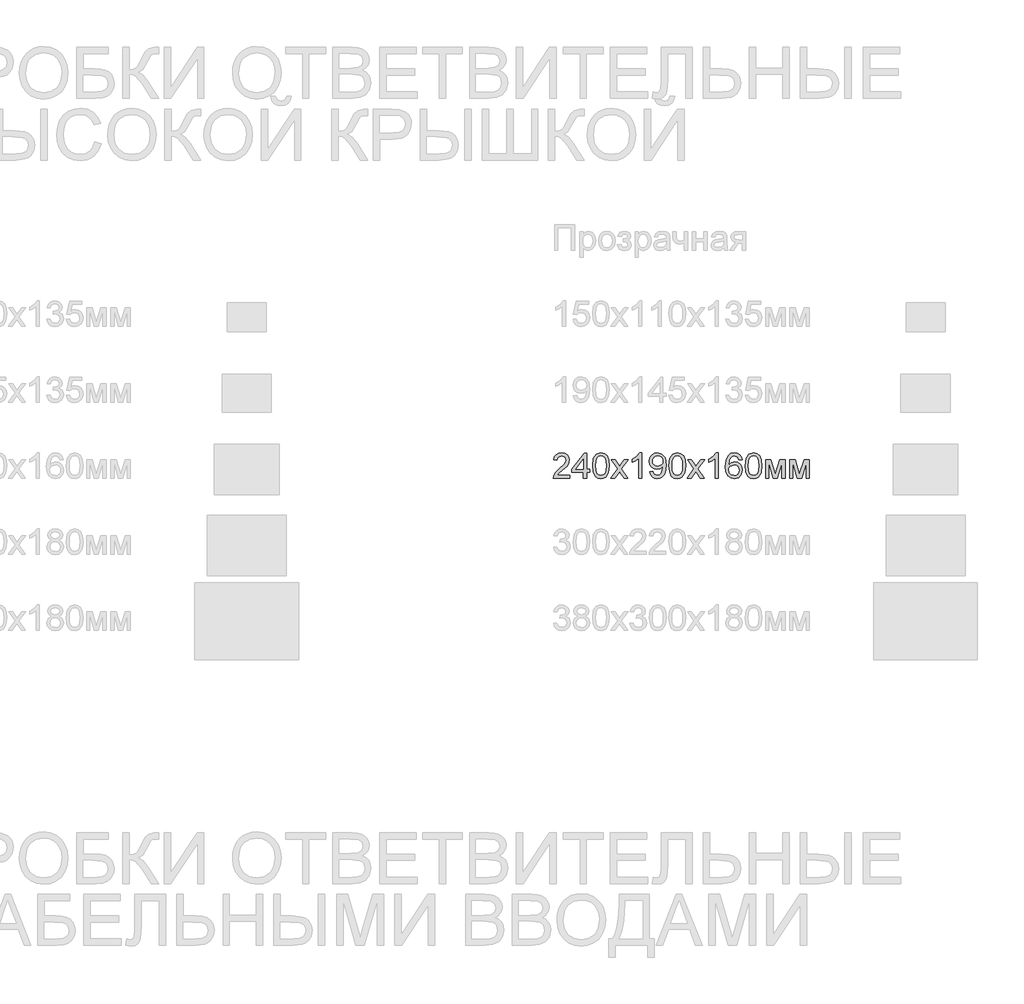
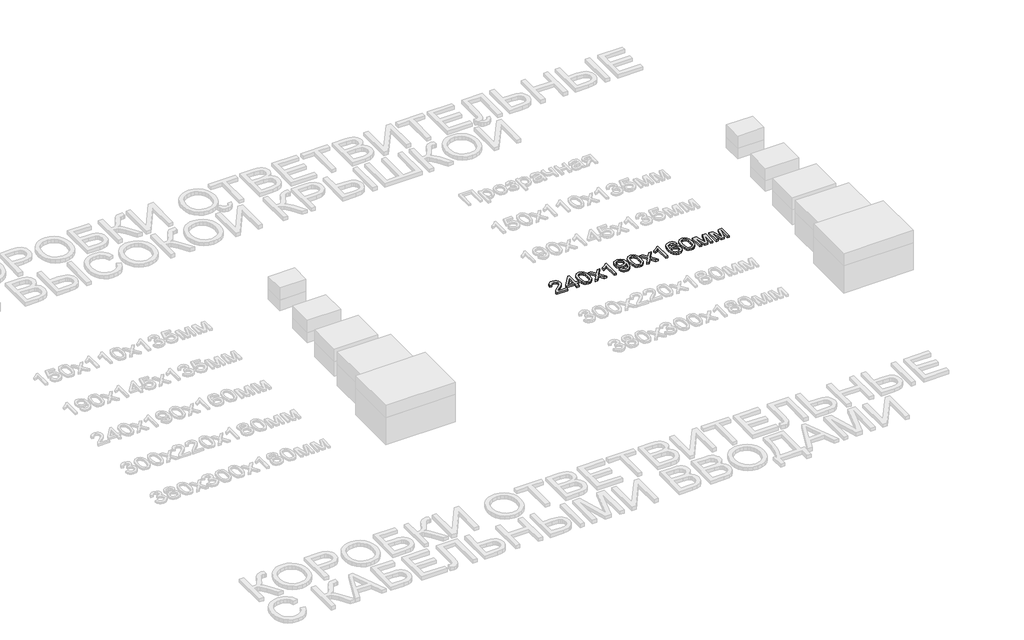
# One storey, part 19 of 98: 1 proxy.
"""IFC4 building model written with IfcOpenShell, lengths in millimetres."""

import ifcopenshell
import ifcopenshell.guid

model = None  # the IFC model being written
_history = None  # IfcOwnerHistory: only IFC2X3 demands one
_inside = {}  # id of a spatial element -> (the spatial element, [elements in it])
_under = {}  # id of a project, library or spatial element -> (it, [spatial elements below it])
_declared = {}  # id of a project -> (the project, [libraries it declares])
_typed = {}  # id of a type object -> (the type object, [elements of that type])
_made_of = {}  # id of a material, layer set ... -> (it, [elements and type objects made of it])


def new_model(schema):
    """Start an empty IFC model of exactly this schema.

    Asked for "IFC4X3", IfcOpenShell would pick the latest addendum, in which some entities
    have other attributes; the version numbers below select the first issue.
    IFC2X3 requires an IfcOwnerHistory on every rooted entity: one is made here for all.
    """
    global model, _history
    if schema == "IFC4X3":
        model = ifcopenshell.file(schema_version=(4, 3, 0, 0))
    else:
        model = ifcopenshell.file(schema=schema)
    _inside.clear()
    _under.clear()
    _declared.clear()
    _typed.clear()
    _made_of.clear()
    _history = None
    if model.schema == "IFC2X3":
        org = make("IfcOrganization", Name="unknown")
        user = make(
            "IfcPersonAndOrganization",
            ThePerson=make("IfcPerson", FamilyName="unknown"),
            TheOrganization=org,
        )
        app = make(
            "IfcApplication",
            ApplicationDeveloper=org,
            Version="unknown",
            ApplicationFullName="unknown",
            ApplicationIdentifier="unknown",
        )
        _history = make(
            "IfcOwnerHistory",
            OwningUser=user,
            OwningApplication=app,
            ChangeAction="ADDED",
            CreationDate=0,
        )
    return model


def make(cls, **values):
    """One entity of the class cls with the attributes given. An attribute that is None is left unset."""
    return model.create_entity(
        cls, **{name: value for name, value in values.items() if value is not None}
    )


def rooted(cls, **values):
    """An entity with a GlobalId (a new one), such as an element, a storey or a relation."""
    return make(cls, GlobalId=ifcopenshell.guid.new(), OwnerHistory=_history, **values)


def si_unit(unit_type, name, prefix=None):
    """IfcSIUnit, for example si_unit("LENGTHUNIT", "METRE", prefix="MILLI")."""
    return make("IfcSIUnit", UnitType=unit_type, Prefix=prefix, Name=name)


def assignment(units):
    """IfcUnitAssignment: the units of a project."""
    return None if units is None else make("IfcUnitAssignment", Units=units)


def point(xyz):
    """IfcCartesianPoint."""
    return None if xyz is None else make("IfcCartesianPoint", Coordinates=xyz)


def direction(xyz):
    """IfcDirection."""
    return None if xyz is None else make("IfcDirection", DirectionRatios=xyz)


def frame(location, z_axis=None, x_axis=None):
    """IfcAxis2Placement3D, a coordinate frame: its origin and axes. An axis left out is left unset."""
    return make(
        "IfcAxis2Placement3D",
        Location=point(location),
        Axis=direction(z_axis),
        RefDirection=direction(x_axis),
    )


def origin():
    """The frame at (0, 0, 0) with its axes left unset."""
    return frame((0.0, 0.0, 0.0))


def origin_with_axes():
    """The frame at (0, 0, 0) with the z axis (0, 0, 1) and the x axis (1, 0, 0) written out."""
    return frame((0.0, 0.0, 0.0), z_axis=(0.0, 0.0, 1.0), x_axis=(1.0, 0.0, 0.0))


def place(relative_to, where):
    """IfcLocalPlacement: puts the frame where relative to a parent placement (None: the world)."""
    return make(
        "IfcLocalPlacement", PlacementRelTo=relative_to, RelativePlacement=where
    )


def context(
    kind, dimensions, precision=None, world=None, true_north=None, identifier=None
):
    """IfcGeometricRepresentationContext, for example the 3D "Model" context."""
    return make(
        "IfcGeometricRepresentationContext",
        ContextIdentifier=identifier,
        ContextType=kind,
        CoordinateSpaceDimension=dimensions,
        Precision=precision,
        WorldCoordinateSystem=world,
        TrueNorth=true_north,
    )


def project(units=None, contexts=None):
    """IfcProject with its units and contexts."""
    return rooted(
        "IfcProject",
        Name="project",
        RepresentationContexts=contexts,
        UnitsInContext=assignment(units),
    )


def spatial(cls, under=None, at=None, **own):
    """A site, building, storey or space (cls), placed at a placement, below another one or the project."""
    s = rooted(cls, ObjectPlacement=at, **own)
    if under is not None:
        _under.setdefault(under.id(), (under, []))[1].append(s)
    return s


def polyline(points):
    """IfcPolyline through the points."""
    return make("IfcPolyline", Points=[point(p) for p in points])


def outline(outer, holes=None, kind="AREA"):
    """IfcArbitraryClosedProfileDef: a profile drawn as a closed curve; with holes, ...WithVoids."""
    if holes is None:
        return make("IfcArbitraryClosedProfileDef", ProfileType=kind, OuterCurve=outer)
    return make(
        "IfcArbitraryProfileDefWithVoids",
        ProfileType=kind,
        OuterCurve=outer,
        InnerCurves=holes,
    )


def extrude(swept, where, along, depth):
    """IfcExtrudedAreaSolid: the profile swept, set in the frame where, extruded along a direction by depth."""
    return make(
        "IfcExtrudedAreaSolid",
        SweptArea=swept,
        Position=where,
        ExtrudedDirection=direction(along),
        Depth=depth,
    )


def shape(context_of_items, identifier, shape_type, items):
    """IfcShapeRepresentation: the items that make up one representation, for example the "Body"."""
    return make(
        "IfcShapeRepresentation",
        ContextOfItems=context_of_items,
        RepresentationIdentifier=identifier,
        RepresentationType=shape_type,
        Items=items,
    )


def made_of(thing, what):
    """Note that an element or type object is made of a material, layer set ...; save() writes the relation."""
    if what is not None:
        _made_of.setdefault(what.id(), (what, []))[1].append(thing)
    return thing


def element(
    cls,
    number,
    at=None,
    inside=None,
    cuts=None,
    type_object=None,
    material=None,
    context=None,
    identifier="Body",
    shape_type=None,
    held_by="IfcProductDefinitionShape",
    body=None,
    shapes=None,
    **own,
):
    """One element of the class cls, such as IfcWall. Its Tag is "e" and its number.

    at: its placement. inside: the storey or other place that contains it. cuts: it is an
    opening in that element (IfcRelVoidsElement). A single representation is given by context,
    identifier, shape_type and body (its items); several are given by shapes. held_by: the class
    of the entity that holds the representations. save() writes the other relations.
    """
    e = rooted(cls, Tag="e%d" % number, ObjectPlacement=at, **own)
    if body is not None:
        shapes = [shape(context, identifier, shape_type, body)]
    if shapes is not None:
        e.Representation = make(held_by, Representations=shapes)
    if inside is not None:
        _inside.setdefault(inside.id(), (inside, []))[1].append(e)
    if cuts is not None:
        rooted(
            "IfcRelVoidsElement", RelatingBuildingElement=cuts, RelatedOpeningElement=e
        )
    if type_object is not None:
        _typed.setdefault(type_object.id(), (type_object, []))[1].append(e)
    return made_of(e, material)


def aggregate(whole, parts):
    """IfcRelAggregates: a whole, such as a stair, and the parts it consists of."""
    return rooted("IfcRelAggregates", RelatingObject=whole, RelatedObjects=parts)


def save(model, path):
    """Write the relations noted so far, then the file.

    IfcRelAggregates (storeys below a building ...), IfcRelContainedInSpatialStructure (elements
    in a storey), IfcRelDefinesByType, IfcRelAssociatesMaterial and IfcRelDeclares: one each for
    every whole, place, type object, material and project.
    """
    for whole, parts in _under.values():
        aggregate(whole, parts)
    for where, things in _inside.values():
        rooted(
            "IfcRelContainedInSpatialStructure",
            RelatedElements=things,
            RelatingStructure=where,
        )
    for kind, things in _typed.values():
        rooted("IfcRelDefinesByType", RelatedObjects=things, RelatingType=kind)
    for what, things in _made_of.values():
        rooted("IfcRelAssociatesMaterial", RelatedObjects=things, RelatingMaterial=what)
    for by, libraries in _declared.values():
        rooted("IfcRelDeclares", RelatingContext=by, RelatedDefinitions=libraries)
    model.write(path)


model = new_model("IFC4")

# Units and contexts
model_context = context("Model", 3, world=origin())
ifc_project = project(units=[si_unit("LENGTHUNIT", "METRE", prefix="MILLI")], contexts=[model_context])

# Site, building, storey
site = spatial("IfcSite", under=ifc_project)
building = spatial("IfcBuilding", under=site)
storey = spatial("IfcBuildingStorey", under=building, Name="Этаж 01", Elevation=0.0)

# Proxy
placement = place(None, origin())
element("IfcBuildingElementProxy", 1, Name="100", ObjectType="100", at=placement, inside=storey, context=model_context, shape_type="SweptSolid", body=[
    extrude(outline(polyline([(2703.2423416, -42924.9803098), (2703.2423416, -42937.5373486), (2637.3178881, -42937.5373486), (2638.6667887, -42928.879859), (2646.2942088, -42915.550268), (2662.0150327, -42900.9944038), (2683.6955449, -42880.074181), (2689.115673, -42865.8494105), (2684.0021133, -42854.334704), (2670.6479968, -42849.6380772), (2656.7297947, -42854.2243394), (2651.4445567, -42866.9040055), (2638.8875179, -42865.3343757), (2641.9317414, -42853.1881385), (2648.5137635, -42844.316051), (2658.2902275, -42838.8897916), (2670.917777, -42837.0810385), (2683.6372969, -42839.0921267), (2693.3953669, -42845.1253914), (2699.6033755, -42854.1385003), (2701.6727118, -42865.089121), (2699.4408943, -42876.9962349), (2692.0219408, -42889.308019), (2674.0325112, -42906.5126337), (2659.5870115, -42918.5914259), (2653.9216288, -42924.9803098), (2703.2423416, -42924.9803098)])), origin_with_axes(), (0.0, 0.0, 1.0), 10.0),
    extrude(outline(polyline([(2756.6097564, -42937.5373486), (2756.6097564, -42913.9929009), (2711.0904908, -42913.9929009), (2711.0904908, -42901.4358622), (2759.7490161, -42838.6506683), (2769.1667951, -42838.6506683), (2769.1667951, -42901.4358622), (2781.7238339, -42901.4358622), (2781.7238339, -42913.9929009), (2769.1667951, -42913.9929009), (2769.1667951, -42937.5373486), (2756.6097564, -42937.5373486)]), holes=[polyline([(2756.6097564, -42901.4358622), (2756.6097564, -42862.6365744), (2726.5415346, -42901.4358622), (2756.6097564, -42901.4358622)])]), origin_with_axes(), (0.0, 0.0, 1.0), 10.0),
    extrude(outline(polyline([(2792.7112428, -42888.1185339), (2796.4023255, -42859.2152718), (2807.365209, -42842.5502175), (2825.6734696, -42837.0810385), (2840.3396985, -42840.3184), (2850.4687161, -42849.65034), (2856.354828, -42864.5127726), (2858.6356964, -42888.1185339), (2854.9814019, -42916.8991687), (2844.0553066, -42933.6010113), (2835.823947, -42937.7304867), (2825.6734696, -42939.1069785), (2812.6259215, -42936.7157455), (2802.7176331, -42929.5420466), (2795.2128404, -42912.5520298), (2792.7112428, -42888.1185339)]), holes=[polyline([(2805.2682816, -42888.0940085), (2806.7398096, -42907.8462059), (2811.1543935, -42919.2781389), (2817.7272185, -42924.7319895), (2825.6734696, -42926.5499397), (2833.6197207, -42924.7258581), (2840.1925457, -42919.2536135), (2844.6071296, -42907.8155491), (2846.0786576, -42888.0940085), (2844.6561806, -42868.7863351), (2840.3887494, -42857.2654973), (2833.8281872, -42851.5449322), (2825.5263168, -42849.6380772), (2817.6659048, -42851.3180717), (2811.3505973, -42856.358055), (2806.7888605, -42868.5962627), (2805.2682816, -42888.0940085)])]), origin_with_axes(), (0.0, 0.0, 1.0), 10.0),
    extrude(outline(polyline([(2864.9142158, -42937.5373486), (2891.7450759, -42900.4548435), (2866.4838456, -42863.7647458), (2881.5915329, -42863.7647458), (2893.7806896, -42881.4230816), (2899.4705978, -42889.7617402), (2904.4002166, -42882.9436605), (2918.2816305, -42863.7647458), (2933.3893178, -42863.7647458), (2906.8527632, -42900.4548435), (2932.4082991, -42937.5373486), (2917.3006119, -42937.5373486), (2901.9231445, -42915.2436997), (2899.1027158, -42911.1724723), (2880.021903, -42937.5373486), (2864.9142158, -42937.5373486)])), origin_with_axes(), (0.0, 0.0, 1.0), 10.0),
    extrude(outline(polyline([(2987.3453437, -42937.5373486), (2974.788305, -42937.5373486), (2974.788305, -42859.25206), (2962.8934538, -42867.7256087), (2949.6742274, -42874.0654417), (2949.6742274, -42862.195116), (2968.0805899, -42850.4474176), (2979.2519399, -42837.0810385), (2987.3453437, -42837.0810385), (2987.3453437, -42937.5373486)])), origin_with_axes(), (0.0, 0.0, 1.0), 10.0),
    extrude(outline(polyline([(3018.7379407, -42912.4232711), (3031.2949794, -42910.8536412), (3036.9358367, -42922.8343315), (3047.62894, -42926.5499397), (3057.7947458, -42924.1587067), (3064.6864019, -42917.7698227), (3068.7944175, -42906.8559902), (3070.609302, -42892.2878632), (3070.5357256, -42889.8353166), (3060.4925471, -42899.3511975), (3046.7214978, -42903.005492), (3035.2711707, -42900.7736746), (3025.7399613, -42894.0782222), (3019.3112234, -42883.7346068), (3017.1683108, -42870.5583), (3019.4154567, -42856.9466662), (3026.1568942, -42846.2780883), (3036.2828462, -42839.3803009), (3048.6835351, -42837.0810385), (3066.5748628, -42842.3294883), (3078.8866469, -42857.2900227), (3083.0927644, -42885.3962072), (3078.8989096, -42915.8936246), (3073.6841823, -42925.8846864), (3066.42771, -42933.1718156), (3057.4421922, -42937.6231877), (3047.0403288, -42939.1069785), (3036.3043059, -42937.3564733), (3027.7387868, -42932.1049578), (3021.7484417, -42923.6835258), (3018.7379407, -42912.4232711)]), holes=[polyline([(3070.5357256, -42870.2639944), (3069.1806936, -42861.7536576), (3065.1155975, -42855.2053581), (3058.8064213, -42851.0298974), (3050.7191488, -42849.6380772), (3042.3314393, -42851.1371964), (3035.6114615, -42855.6345538), (3031.1968776, -42862.5170127), (3029.7253496, -42871.1714367), (3031.1171698, -42878.9306811), (3035.2926305, -42885.0896388), (3041.8470613, -42889.1087496), (3050.3757923, -42890.4484532), (3064.8580801, -42885.0896388), (3069.1163142, -42878.7038205), (3070.5357256, -42870.2639944)])]), origin_with_axes(), (0.0, 0.0, 1.0), 10.0),
    extrude(outline(polyline([(3094.0801733, -42888.1185339), (3097.771256, -42859.2152718), (3108.7341394, -42842.5502175), (3127.0424, -42837.0810385), (3141.7086289, -42840.3184), (3151.8376465, -42849.65034), (3157.7237584, -42864.5127726), (3160.0046268, -42888.1185339), (3156.3503323, -42916.8991687), (3145.4242371, -42933.6010113), (3137.1928774, -42937.7304867), (3127.0424, -42939.1069785), (3113.994852, -42936.7157455), (3104.0865635, -42929.5420466), (3096.5817708, -42912.5520298), (3094.0801733, -42888.1185339)]), holes=[polyline([(3106.637212, -42888.0940085), (3108.10874, -42907.8462059), (3112.523324, -42919.2781389), (3119.096149, -42924.7319895), (3127.0424, -42926.5499397), (3134.9886511, -42924.7258581), (3141.5614761, -42919.2536135), (3145.9760601, -42907.8155491), (3147.447588, -42888.0940085), (3146.025111, -42868.7863351), (3141.7576799, -42857.2654973), (3135.1971176, -42851.5449322), (3126.8952473, -42849.6380772), (3119.0348353, -42851.3180717), (3112.7195277, -42856.358055), (3108.157791, -42868.5962627), (3106.637212, -42888.0940085)])]), origin_with_axes(), (0.0, 0.0, 1.0), 10.0),
    extrude(outline(polyline([(3166.2831462, -42937.5373486), (3193.1140064, -42900.4548435), (3167.852776, -42863.7647458), (3182.9604633, -42863.7647458), (3195.1496201, -42881.4230816), (3200.8395283, -42889.7617402), (3205.769147, -42882.9436605), (3219.650561, -42863.7647458), (3234.7582482, -42863.7647458), (3208.2216937, -42900.4548435), (3233.7772296, -42937.5373486), (3218.6695423, -42937.5373486), (3203.2920749, -42915.2436997), (3200.4716463, -42911.1724723), (3181.3908335, -42937.5373486), (3166.2831462, -42937.5373486)])), origin_with_axes(), (0.0, 0.0, 1.0), 10.0),
    extrude(outline(polyline([(3288.7142742, -42937.5373486), (3276.1572354, -42937.5373486), (3276.1572354, -42859.25206), (3264.2623842, -42867.7256087), (3251.0431579, -42874.0654417), (3251.0431579, -42862.195116), (3269.4495204, -42850.4474176), (3280.6208703, -42837.0810385), (3288.7142742, -42837.0810385), (3288.7142742, -42937.5373486)])), origin_with_axes(), (0.0, 0.0, 1.0), 10.0),
    extrude(outline(polyline([(3382.892065, -42863.7647458), (3370.3350262, -42865.3343757), (3365.5770857, -42854.8620016), (3352.9955215, -42849.6380772), (3341.664756, -42852.6792351), (3333.0931055, -42864.0958396), (3329.5246502, -42886.4753277), (3340.5978982, -42876.4566747), (3354.3198967, -42873.1825249), (3365.9204422, -42875.4204737), (3375.6570524, -42882.1343201), (3382.2605342, -42892.3920964), (3384.4616948, -42905.2618349), (3380.316891, -42922.5890769), (3368.9125491, -42934.85181), (3352.4559612, -42939.1069785), (3338.209731, -42936.2865498), (3326.8636371, -42927.8252639), (3319.4416178, -42912.8892549), (3316.9676114, -42890.644657), (3319.7144637, -42865.6348127), (3327.9550203, -42848.5344312), (3339.206078, -42839.9443867), (3353.7803364, -42837.0810385), (3364.7984022, -42838.8530034), (3373.6214387, -42844.1688982), (3379.8018562, -42852.61179), (3382.892065, -42863.7647458)]), holes=[polyline([(3329.5246502, -42905.0656312), (3332.430918, -42915.9426755), (3340.1564399, -42923.8398757), (3351.4749426, -42926.5499397), (3359.7614845, -42925.1458567), (3366.2760615, -42920.9336079), (3370.4975074, -42914.311732), (3371.904656, -42905.6787678), (3370.5159015, -42897.3922259), (3366.3496379, -42891.0738526), (3359.7246963, -42887.0731359), (3350.9599078, -42885.7395637), (3335.7663814, -42891.0738526), (3331.085083, -42897.2389417), (3329.5246502, -42905.0656312)])]), origin_with_axes(), (0.0, 0.0, 1.0), 10.0),
    extrude(outline(polyline([(3395.4491037, -42888.1185339), (3399.1401864, -42859.2152718), (3410.1030699, -42842.5502175), (3428.4113305, -42837.0810385), (3443.0775594, -42840.3184), (3453.206577, -42849.65034), (3459.0926889, -42864.5127726), (3461.3735573, -42888.1185339), (3457.7192628, -42916.8991687), (3446.7931675, -42933.6010113), (3438.5618079, -42937.7304867), (3428.4113305, -42939.1069785), (3415.3637824, -42936.7157455), (3405.455494, -42929.5420466), (3397.9507013, -42912.5520298), (3395.4491037, -42888.1185339)]), holes=[polyline([(3408.0061425, -42888.0940085), (3409.4776705, -42907.8462059), (3413.8922544, -42919.2781389), (3420.4650794, -42924.7319895), (3428.4113305, -42926.5499397), (3436.3575816, -42924.7258581), (3442.9304066, -42919.2536135), (3447.3449905, -42907.8155491), (3448.8165185, -42888.0940085), (3447.3940414, -42868.7863351), (3443.1266103, -42857.2654973), (3436.5660481, -42851.5449322), (3428.2641777, -42849.6380772), (3420.4037657, -42851.3180717), (3414.0884582, -42856.358055), (3409.5267214, -42868.5962627), (3408.0061425, -42888.0940085)])]), origin_with_axes(), (0.0, 0.0, 1.0), 10.0),
    extrude(outline(polyline([(3475.5002259, -42863.7647458), (3497.1071617, -42863.7647458), (3513.7599534, -42922.8220688), (3531.7125947, -42863.7647458), (3552.4120883, -42863.7647458), (3552.4120883, -42937.5373486), (3539.8550496, -42937.5373486), (3539.8550496, -42878.1366691), (3521.8043063, -42937.5373486), (3505.323193, -42937.5373486), (3488.0572646, -42875.291715), (3488.0572646, -42937.5373486), (3475.5002259, -42937.5373486), (3475.5002259, -42863.7647458)])), origin_with_axes(), (0.0, 0.0, 1.0), 10.0),
    extrude(outline(polyline([(3571.2476465, -42863.7647458), (3592.8545823, -42863.7647458), (3609.507374, -42922.8220688), (3627.4600154, -42863.7647458), (3648.1595089, -42863.7647458), (3648.1595089, -42937.5373486), (3635.6024702, -42937.5373486), (3635.6024702, -42878.1366691), (3617.551727, -42937.5373486), (3601.0706136, -42937.5373486), (3583.8046853, -42875.291715), (3583.8046853, -42937.5373486), (3571.2476465, -42937.5373486), (3571.2476465, -42863.7647458)])), origin_with_axes(), (0.0, 0.0, 1.0), 10.0),
])

save(model, "model.ifc")
